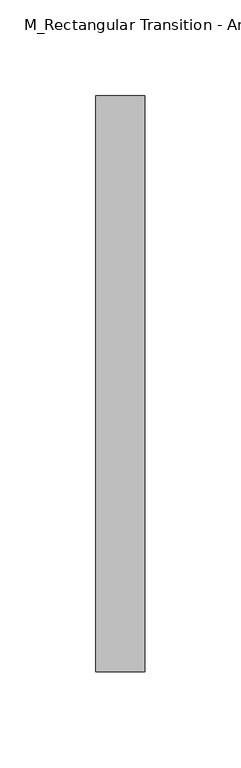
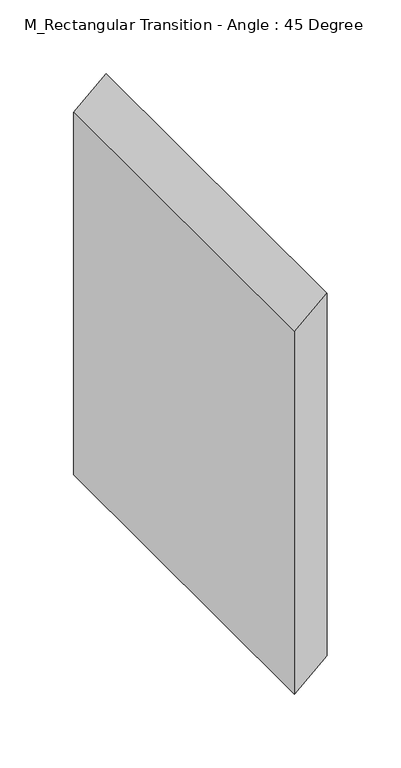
"""IFC4 building model written with IfcOpenShell, lengths in millimetres: duct fitting geometry, M_Rectangular Transition - Angle : 45 Degree."""

import ifcopenshell
import ifcopenshell.guid

model = None  # the IFC model being written
_history = None  # IfcOwnerHistory: only IFC2X3 demands one
_inside = {}  # id of a spatial element -> (the spatial element, [elements in it])
_under = {}  # id of a project, library or spatial element -> (it, [spatial elements below it])
_declared = {}  # id of a project -> (the project, [libraries it declares])
_typed = {}  # id of a type object -> (the type object, [elements of that type])
_made_of = {}  # id of a material, layer set ... -> (it, [elements and type objects made of it])


def new_model(schema):
    """Start an empty IFC model of exactly this schema.

    Asked for "IFC4X3", IfcOpenShell would pick the latest addendum, in which some entities
    have other attributes; the version numbers below select the first issue.
    IFC2X3 requires an IfcOwnerHistory on every rooted entity: one is made here for all.
    """
    global model, _history
    if schema == "IFC4X3":
        model = ifcopenshell.file(schema_version=(4, 3, 0, 0))
    else:
        model = ifcopenshell.file(schema=schema)
    _inside.clear()
    _under.clear()
    _declared.clear()
    _typed.clear()
    _made_of.clear()
    _history = None
    if model.schema == "IFC2X3":
        org = make("IfcOrganization", Name="unknown")
        user = make(
            "IfcPersonAndOrganization",
            ThePerson=make("IfcPerson", FamilyName="unknown"),
            TheOrganization=org,
        )
        app = make(
            "IfcApplication",
            ApplicationDeveloper=org,
            Version="unknown",
            ApplicationFullName="unknown",
            ApplicationIdentifier="unknown",
        )
        _history = make(
            "IfcOwnerHistory",
            OwningUser=user,
            OwningApplication=app,
            ChangeAction="ADDED",
            CreationDate=0,
        )
    return model


def make(cls, **values):
    """One entity of the class cls with the attributes given. An attribute that is None is left unset."""
    return model.create_entity(
        cls, **{name: value for name, value in values.items() if value is not None}
    )


def rooted(cls, **values):
    """An entity with a GlobalId (a new one), such as an element, a storey or a relation."""
    return make(cls, GlobalId=ifcopenshell.guid.new(), OwnerHistory=_history, **values)


def si_unit(unit_type, name, prefix=None):
    """IfcSIUnit, for example si_unit("LENGTHUNIT", "METRE", prefix="MILLI")."""
    return make("IfcSIUnit", UnitType=unit_type, Prefix=prefix, Name=name)


def assignment(units):
    """IfcUnitAssignment: the units of a project."""
    return None if units is None else make("IfcUnitAssignment", Units=units)


def point(xyz):
    """IfcCartesianPoint."""
    return None if xyz is None else make("IfcCartesianPoint", Coordinates=xyz)


def direction(xyz):
    """IfcDirection."""
    return None if xyz is None else make("IfcDirection", DirectionRatios=xyz)


def frame(location, z_axis=None, x_axis=None):
    """IfcAxis2Placement3D, a coordinate frame: its origin and axes. An axis left out is left unset."""
    return make(
        "IfcAxis2Placement3D",
        Location=point(location),
        Axis=direction(z_axis),
        RefDirection=direction(x_axis),
    )


def origin():
    """The frame at (0, 0, 0) with its axes left unset."""
    return frame((0.0, 0.0, 0.0))


def place(relative_to, where):
    """IfcLocalPlacement: puts the frame where relative to a parent placement (None: the world)."""
    return make(
        "IfcLocalPlacement", PlacementRelTo=relative_to, RelativePlacement=where
    )


def context(
    kind, dimensions, precision=None, world=None, true_north=None, identifier=None
):
    """IfcGeometricRepresentationContext, for example the 3D "Model" context."""
    return make(
        "IfcGeometricRepresentationContext",
        ContextIdentifier=identifier,
        ContextType=kind,
        CoordinateSpaceDimension=dimensions,
        Precision=precision,
        WorldCoordinateSystem=world,
        TrueNorth=true_north,
    )


def project(units=None, contexts=None):
    """IfcProject with its units and contexts."""
    return rooted(
        "IfcProject",
        Name="project",
        RepresentationContexts=contexts,
        UnitsInContext=assignment(units),
    )


def spatial(cls, under=None, at=None, **own):
    """A site, building, storey or space (cls), placed at a placement, below another one or the project."""
    s = rooted(cls, ObjectPlacement=at, **own)
    if under is not None:
        _under.setdefault(under.id(), (under, []))[1].append(s)
    return s


def polyline(points):
    """IfcPolyline through the points."""
    return make("IfcPolyline", Points=[point(p) for p in points])


def outline(outer, holes=None, kind="AREA"):
    """IfcArbitraryClosedProfileDef: a profile drawn as a closed curve; with holes, ...WithVoids."""
    if holes is None:
        return make("IfcArbitraryClosedProfileDef", ProfileType=kind, OuterCurve=outer)
    return make(
        "IfcArbitraryProfileDefWithVoids",
        ProfileType=kind,
        OuterCurve=outer,
        InnerCurves=holes,
    )


def extrude(swept, where, along, depth):
    """IfcExtrudedAreaSolid: the profile swept, set in the frame where, extruded along a direction by depth."""
    return make(
        "IfcExtrudedAreaSolid",
        SweptArea=swept,
        Position=where,
        ExtrudedDirection=direction(along),
        Depth=depth,
    )


def shape(context_of_items, identifier, shape_type, items):
    """IfcShapeRepresentation: the items that make up one representation, for example the "Body"."""
    return make(
        "IfcShapeRepresentation",
        ContextOfItems=context_of_items,
        RepresentationIdentifier=identifier,
        RepresentationType=shape_type,
        Items=items,
    )


def source(mapping_origin, context_of_items, identifier, shape_type, items):
    """IfcRepresentationMap: a shape defined once, which mapped items show again and again."""
    return make(
        "IfcRepresentationMap",
        MappingOrigin=mapping_origin,
        MappedRepresentation=shape(context_of_items, identifier, shape_type, items),
    )


def transform(
    local_origin,
    x_axis=None,
    y_axis=None,
    z_axis=None,
    scale=None,
    scale2=None,
    scale3=None,
    uniform=True,
):
    """IfcCartesianTransformationOperator3D, or its non-uniform kind. x_axis, y_axis, z_axis: its Axis1, 2, 3."""
    if uniform:
        return make(
            "IfcCartesianTransformationOperator3D",
            Axis1=direction(x_axis),
            Axis2=direction(y_axis),
            LocalOrigin=point(local_origin),
            Scale=scale,
            Axis3=direction(z_axis),
        )
    return make(
        "IfcCartesianTransformationOperator3DnonUniform",
        Axis1=direction(x_axis),
        Axis2=direction(y_axis),
        LocalOrigin=point(local_origin),
        Scale=scale,
        Axis3=direction(z_axis),
        Scale2=scale2,
        Scale3=scale3,
    )


def mapped(mapping_source, mapping_target):
    """IfcMappedItem: shows the shape of a source again, moved by a transform."""
    return make(
        "IfcMappedItem", MappingSource=mapping_source, MappingTarget=mapping_target
    )


def made_of(thing, what):
    """Note that an element or type object is made of a material, layer set ...; save() writes the relation."""
    if what is not None:
        _made_of.setdefault(what.id(), (what, []))[1].append(thing)
    return thing


def element(
    cls,
    number,
    at=None,
    inside=None,
    cuts=None,
    type_object=None,
    material=None,
    context=None,
    identifier="Body",
    shape_type=None,
    held_by="IfcProductDefinitionShape",
    body=None,
    shapes=None,
    **own,
):
    """One element of the class cls, such as IfcWall. Its Tag is "e" and its number.

    at: its placement. inside: the storey or other place that contains it. cuts: it is an
    opening in that element (IfcRelVoidsElement). A single representation is given by context,
    identifier, shape_type and body (its items); several are given by shapes. held_by: the class
    of the entity that holds the representations. save() writes the other relations.
    """
    e = rooted(cls, Tag="e%d" % number, ObjectPlacement=at, **own)
    if body is not None:
        shapes = [shape(context, identifier, shape_type, body)]
    if shapes is not None:
        e.Representation = make(held_by, Representations=shapes)
    if inside is not None:
        _inside.setdefault(inside.id(), (inside, []))[1].append(e)
    if cuts is not None:
        rooted(
            "IfcRelVoidsElement", RelatingBuildingElement=cuts, RelatedOpeningElement=e
        )
    if type_object is not None:
        _typed.setdefault(type_object.id(), (type_object, []))[1].append(e)
    return made_of(e, material)


def aggregate(whole, parts):
    """IfcRelAggregates: a whole, such as a stair, and the parts it consists of."""
    return rooted("IfcRelAggregates", RelatingObject=whole, RelatedObjects=parts)


def save(model, path):
    """Write the relations noted so far, then the file.

    IfcRelAggregates (storeys below a building ...), IfcRelContainedInSpatialStructure (elements
    in a storey), IfcRelDefinesByType, IfcRelAssociatesMaterial and IfcRelDeclares: one each for
    every whole, place, type object, material and project.
    """
    for whole, parts in _under.values():
        aggregate(whole, parts)
    for where, things in _inside.values():
        rooted(
            "IfcRelContainedInSpatialStructure",
            RelatedElements=things,
            RelatingStructure=where,
        )
    for kind, things in _typed.values():
        rooted("IfcRelDefinesByType", RelatedObjects=things, RelatingType=kind)
    for what, things in _made_of.values():
        rooted("IfcRelAssociatesMaterial", RelatedObjects=things, RelatingMaterial=what)
    for by, libraries in _declared.values():
        rooted("IfcRelDeclares", RelatingContext=by, RelatedDefinitions=libraries)
    model.write(path)


def m_rectangular_transition_angle_45_degree_29f2d6f3(model_context):
    return source(origin(), model_context, "Body", "SweptSolid", [
        extrude(outline(polyline([(-150.0, 0.0), (150.0, 0.0), (127.1000241, -25.4), (-172.8999759, -25.4), (-150.0, 0.0)])), frame((0.0, -150.0, 0.0), z_axis=(-1.0461631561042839e-11, 1.0, 0.0), x_axis=(0.0, 0.0, -1.0)), (0.0, 0.0, 1.0), 300.0),
        extrude(outline(polyline([(-150.0, 0.0), (150.0, 0.0), (127.1000241, -25.4), (-172.8999759, -25.4), (-150.0, 0.0)])), frame((0.0, -150.0, 0.0), z_axis=(-3.2127633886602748e-12, 1.0, 0.0), x_axis=(0.0, 0.0, -1.0)), (0.0, 0.0, 1.0), 300.0),
        extrude(outline(polyline([(150.0, 0.0), (-150.0, 0.0), (-127.1000241, 25.4), (172.8999759, 25.4), (150.0, 0.0)])), frame((0.0, -150.0, 0.0), z_axis=(0.0, 1.0, 0.0), x_axis=(0.0, 0.0, 1.0)), (0.0, 0.0, 1.0), 300.0),
    ])


if __name__ == "__main__":
    model = new_model("IFC4")
    model_context = context("Model", 3, world=origin())
    ifc_project = project(units=[si_unit("LENGTHUNIT", "METRE", prefix="MILLI")], contexts=[model_context])
    site = spatial("IfcSite", under=ifc_project)
    building = spatial("IfcBuilding", under=site)
    placement = place(None, origin())
    m_rectangular_transition_angle_45_degree_shape = m_rectangular_transition_angle_45_degree_29f2d6f3(model_context)
    element("IfcDuctFitting", 1, ObjectType="M_Rectangular Transition - Angle : 45 Degree", at=placement, inside=building, context=model_context, shape_type="MappedRepresentation", body=[
        mapped(m_rectangular_transition_angle_45_degree_shape, transform((0.0, 0.0, 0.0), x_axis=(1.0, 0.0, 0.0), y_axis=(0.0, 1.0, 0.0), z_axis=(0.0, 0.0, 1.0))),
    ])
    save(model, "model.ifc")
